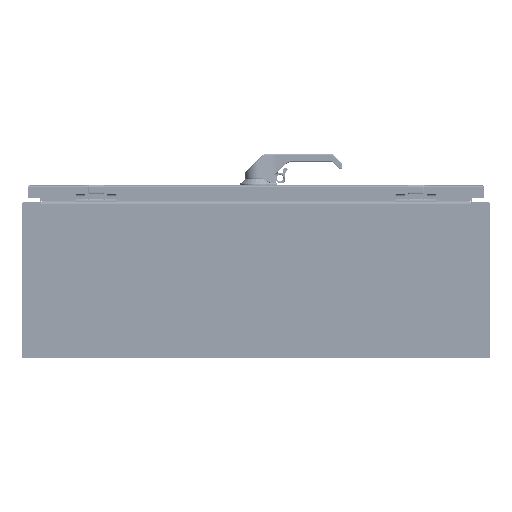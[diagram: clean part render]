
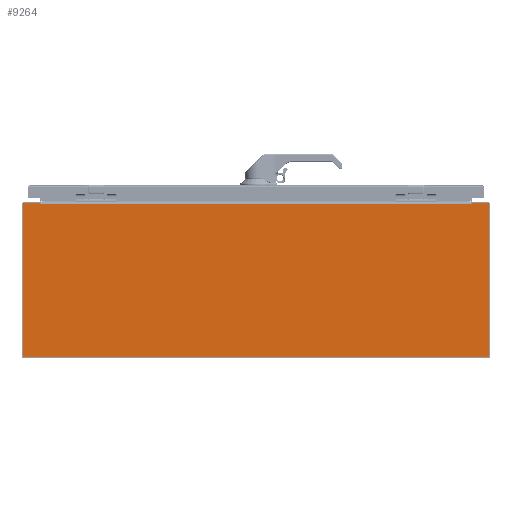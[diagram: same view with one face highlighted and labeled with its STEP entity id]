
A CAD part, front view. The second image highlights one B-rep face of the part: STEP entity #9264.
In plain terms, the highlighted planar face has unit normal (0, -1, 0).
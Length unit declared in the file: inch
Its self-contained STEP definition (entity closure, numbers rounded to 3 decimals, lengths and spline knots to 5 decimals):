
#7831=CARTESIAN_POINT('',(-14.857,0.,4.857));
#7832=DIRECTION('',(0.,-1.,0.));
#7833=DIRECTION('',(0.,0.,1.));
#7834=AXIS2_PLACEMENT_3D('',#7831,#7832,#7833);
#7839=DIRECTION('',(-1.,0.,0.));
#7840=VECTOR('',#7839,1.03388);
#7841=CARTESIAN_POINT('',(-13.82312,0.,4.937));
#7842=LINE('',#7841,#7840);
#7846=DIRECTION('',(0.174,0.,-0.985));
#7847=VECTOR('',#7846,0.05483);
#7848=CARTESIAN_POINT('',(-13.82312,0.,4.937));
#7849=LINE('',#7848,#7847);
#7853=DIRECTION('',(-1.,0.,0.));
#7854=VECTOR('',#7853,0.0156);
#7855=CARTESIAN_POINT('',(-13.798,0.,4.883));
#7856=LINE('',#7855,#7854);
#7860=DIRECTION('',(1.,0.,0.));
#7861=VECTOR('',#7860,0.0156);
#7862=CARTESIAN_POINT('',(13.798,0.,4.883));
#7863=LINE('',#7862,#7861);
#7867=DIRECTION('',(-0.174,0.,-0.985));
#7868=VECTOR('',#7867,0.05483);
#7869=CARTESIAN_POINT('',(13.82312,0.,4.937));
#7870=LINE('',#7869,#7868);
#7874=DIRECTION('',(-1.,0.,0.));
#7875=VECTOR('',#7874,1.03388);
#7876=CARTESIAN_POINT('',(14.857,0.,4.937));
#7877=LINE('',#7876,#7875);
#7881=CARTESIAN_POINT('',(14.857,0.,4.857));
#7882=DIRECTION('',(0.,-1.,0.));
#7883=DIRECTION('',(1.,0.,0.));
#7884=AXIS2_PLACEMENT_3D('',#7881,#7882,#7883);
#7889=DIRECTION('',(0.,0.,1.));
#7890=VECTOR('',#7889,9.714);
#7891=CARTESIAN_POINT('',(14.937,0.,-4.857));
#7892=LINE('',#7891,#7890);
#7896=CARTESIAN_POINT('',(14.857,0.,-4.857));
#7897=DIRECTION('',(0.,-1.,0.));
#7898=DIRECTION('',(0.,0.,-1.));
#7899=AXIS2_PLACEMENT_3D('',#7896,#7897,#7898);
#7904=DIRECTION('',(1.,0.,0.));
#7905=VECTOR('',#7904,29.714);
#7906=CARTESIAN_POINT('',(-14.857,0.,-4.937));
#7907=LINE('',#7906,#7905);
#7911=CARTESIAN_POINT('',(-14.857,0.,-4.857));
#7912=DIRECTION('',(0.,-1.,0.));
#7913=DIRECTION('',(-1.,0.,0.));
#7914=AXIS2_PLACEMENT_3D('',#7911,#7912,#7913);
#7919=DIRECTION('',(0.,0.,-1.));
#7920=VECTOR('',#7919,9.714);
#7921=CARTESIAN_POINT('',(-14.937,0.,4.857));
#7922=LINE('',#7921,#7920);
#8200=DIRECTION('',(1.,0.,0.));
#8201=VECTOR('',#8200,27.596);
#8202=CARTESIAN_POINT('',(-13.798,0.,4.883));
#8203=LINE('',#8202,#8201);
#9045=CARTESIAN_POINT('',(13.798,0.,4.883));
#9046=CARTESIAN_POINT('',(13.8136,0.,4.883));
#9047=VERTEX_POINT('',#9045);
#9048=VERTEX_POINT('',#9046);
#9049=CARTESIAN_POINT('',(13.82312,0.,4.937));
#9050=VERTEX_POINT('',#9049);
#9057=CARTESIAN_POINT('',(-13.798,0.,4.883));
#9058=CARTESIAN_POINT('',(-13.8136,0.,4.883));
#9059=VERTEX_POINT('',#9057);
#9060=VERTEX_POINT('',#9058);
#9061=CARTESIAN_POINT('',(-13.82312,0.,4.937));
#9062=VERTEX_POINT('',#9061);
#9125=CARTESIAN_POINT('',(-14.857,0.,4.937));
#9126=CARTESIAN_POINT('',(-14.937,0.,4.857));
#9127=VERTEX_POINT('',#9125);
#9128=VERTEX_POINT('',#9126);
#9133=CARTESIAN_POINT('',(-14.937,0.,-4.857));
#9134=CARTESIAN_POINT('',(-14.857,0.,-4.937));
#9135=VERTEX_POINT('',#9133);
#9136=VERTEX_POINT('',#9134);
#9141=CARTESIAN_POINT('',(14.857,0.,-4.937));
#9142=CARTESIAN_POINT('',(14.937,0.,-4.857));
#9143=VERTEX_POINT('',#9141);
#9144=VERTEX_POINT('',#9142);
#9149=CARTESIAN_POINT('',(14.937,0.,4.857));
#9150=CARTESIAN_POINT('',(14.857,0.,4.937));
#9151=VERTEX_POINT('',#9149);
#9152=VERTEX_POINT('',#9150);
#9229=CARTESIAN_POINT('',(0.,0.,0.));
#9230=DIRECTION('',(0.,-1.,0.));
#9231=DIRECTION('',(-1.,0.,0.));
#9232=AXIS2_PLACEMENT_3D('',#9229,#9230,#9231);
#9233=PLANE('',#9232);
#9235=ORIENTED_EDGE('',*,*,#9234,.F.);
#9237=ORIENTED_EDGE('',*,*,#9236,.F.);
#9239=ORIENTED_EDGE('',*,*,#9238,.T.);
#9241=ORIENTED_EDGE('',*,*,#9240,.F.);
#9243=ORIENTED_EDGE('',*,*,#9242,.T.);
#9245=ORIENTED_EDGE('',*,*,#9244,.T.);
#9247=ORIENTED_EDGE('',*,*,#9246,.F.);
#9249=ORIENTED_EDGE('',*,*,#9248,.F.);
#9251=ORIENTED_EDGE('',*,*,#9250,.F.);
#9253=ORIENTED_EDGE('',*,*,#9252,.F.);
#9255=ORIENTED_EDGE('',*,*,#9254,.F.);
#9257=ORIENTED_EDGE('',*,*,#9256,.F.);
#9259=ORIENTED_EDGE('',*,*,#9258,.F.);
#9261=ORIENTED_EDGE('',*,*,#9260,.F.);
#9262=EDGE_LOOP('',(#9235,#9237,#9239,#9241,#9243,#9245,#9247,#9249,#9251,#9253,
#9255,#9257,#9259,#9261));
#9263=FACE_OUTER_BOUND('',#9262,.F.);
#7835=CIRCLE('',#7834,0.08);
#7885=CIRCLE('',#7884,0.08);
#7900=CIRCLE('',#7899,0.08);
#7915=CIRCLE('',#7914,0.08);
#9234=EDGE_CURVE('',#9127,#9128,#7835,.T.);
#9236=EDGE_CURVE('',#9062,#9127,#7842,.T.);
#9238=EDGE_CURVE('',#9062,#9060,#7849,.T.);
#9240=EDGE_CURVE('',#9059,#9060,#7856,.T.);
#9242=EDGE_CURVE('',#9059,#9047,#8203,.T.);
#9244=EDGE_CURVE('',#9047,#9048,#7863,.T.);
#9246=EDGE_CURVE('',#9050,#9048,#7870,.T.);
#9248=EDGE_CURVE('',#9152,#9050,#7877,.T.);
#9250=EDGE_CURVE('',#9151,#9152,#7885,.T.);
#9252=EDGE_CURVE('',#9144,#9151,#7892,.T.);
#9254=EDGE_CURVE('',#9143,#9144,#7900,.T.);
#9256=EDGE_CURVE('',#9136,#9143,#7907,.T.);
#9258=EDGE_CURVE('',#9135,#9136,#7915,.T.);
#9260=EDGE_CURVE('',#9128,#9135,#7922,.T.);
#9264=ADVANCED_FACE('',(#9263),#9233,.T.);
